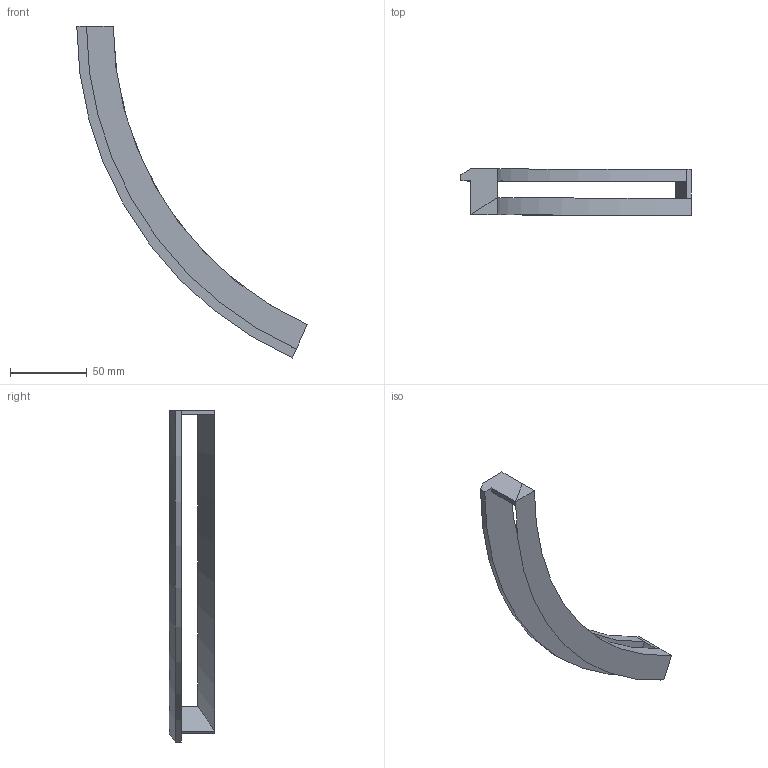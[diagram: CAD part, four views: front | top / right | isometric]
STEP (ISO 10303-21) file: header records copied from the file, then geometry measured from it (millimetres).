
FILE_DESCRIPTION(/* description */ ('Alibre Inc.'),/* implementation_level */ '2;1');
FILE_NAME(/* name */ 'export0',/* time_stamp */ '2013-03-04T18:28:36-05:00',/* author */ (''),/* organization */ (''),/* preprocessor_version */ 'ST-DEVELOPER v14',/* originating_system */ 'Alibre',/* authorisation */ '');
FILE_SCHEMA (('CONFIG_CONTROL_DESIGN'));
Length unit declared in the file: centimetre
Products named in the file (1): ID_1
Bounding box: 150.39 x 29.97 x 216.66 mm (x, y, z)
Volume: 71952.9 mm3; surface area: 30132.5 mm2
Topology: 2 solids, 2 shells, 26 faces, 60 edges, 36 vertices
Faces by surface type: plane 21, cylinder 3, cone 2
Entity records: 758 total; most frequent: ORIENTED_EDGE 124, CARTESIAN_POINT 123, DIRECTION 91, EDGE_CURVE 60, VECTOR 46, LINE 46, VERTEX_POINT 36, AXIS2_PLACEMENT_3D 31
